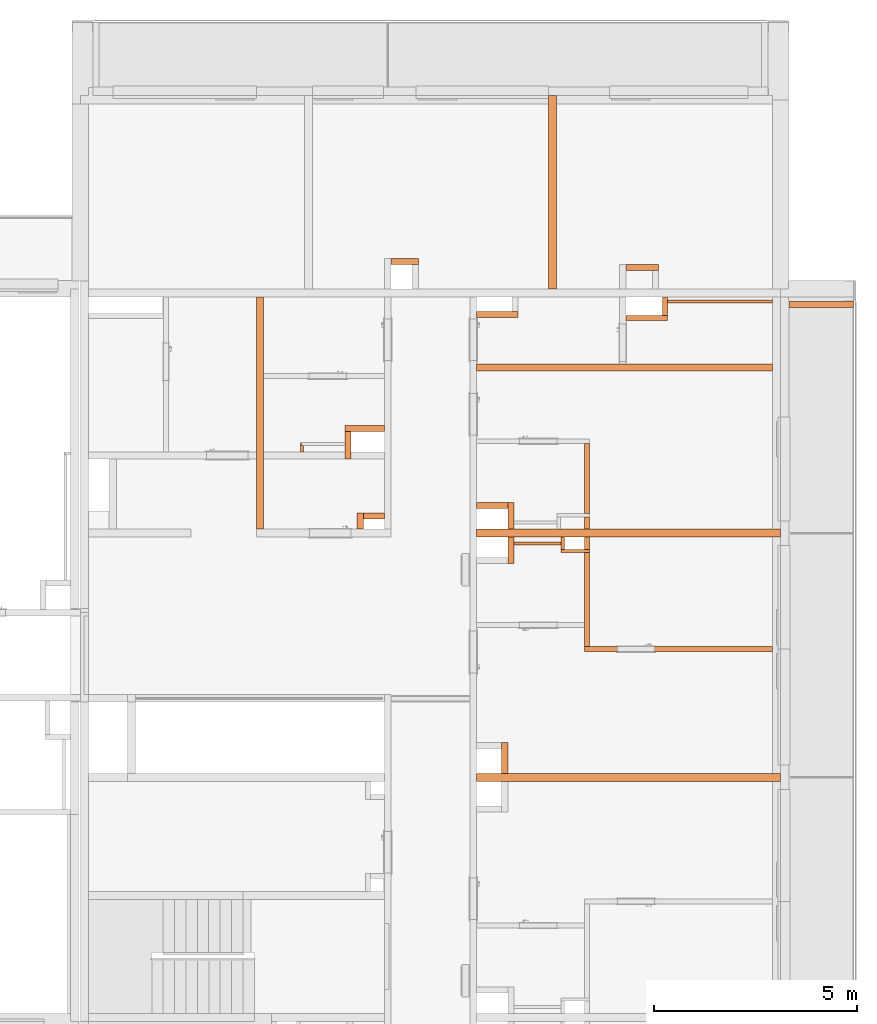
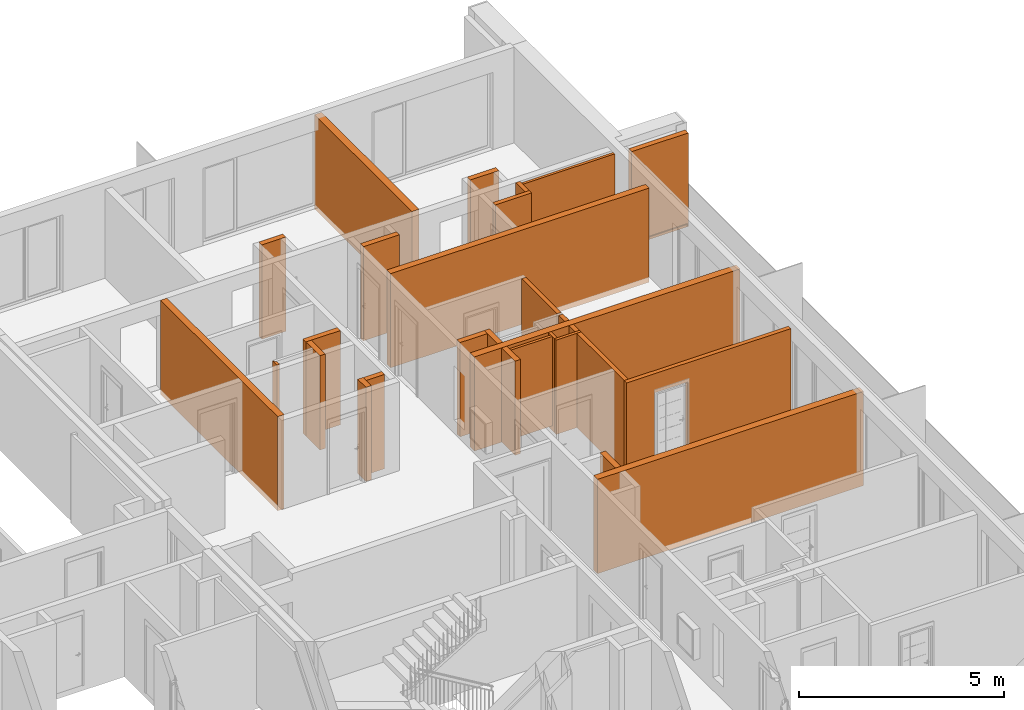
# One storey, part 64 of 64: 27 proxies, 1 opening.
"""IFC2X3 building model written with IfcOpenShell, lengths in millimetres."""

import ifcopenshell
import ifcopenshell.guid

model = None  # the IFC model being written
_history = None  # IfcOwnerHistory: only IFC2X3 demands one
_inside = {}  # id of a spatial element -> (the spatial element, [elements in it])
_under = {}  # id of a project, library or spatial element -> (it, [spatial elements below it])
_declared = {}  # id of a project -> (the project, [libraries it declares])
_typed = {}  # id of a type object -> (the type object, [elements of that type])
_made_of = {}  # id of a material, layer set ... -> (it, [elements and type objects made of it])


def new_model(schema):
    """Start an empty IFC model of exactly this schema.

    Asked for "IFC4X3", IfcOpenShell would pick the latest addendum, in which some entities
    have other attributes; the version numbers below select the first issue.
    IFC2X3 requires an IfcOwnerHistory on every rooted entity: one is made here for all.
    """
    global model, _history
    if schema == "IFC4X3":
        model = ifcopenshell.file(schema_version=(4, 3, 0, 0))
    else:
        model = ifcopenshell.file(schema=schema)
    _inside.clear()
    _under.clear()
    _declared.clear()
    _typed.clear()
    _made_of.clear()
    _history = None
    if model.schema == "IFC2X3":
        org = make("IfcOrganization", Name="unknown")
        user = make(
            "IfcPersonAndOrganization",
            ThePerson=make("IfcPerson", FamilyName="unknown"),
            TheOrganization=org,
        )
        app = make(
            "IfcApplication",
            ApplicationDeveloper=org,
            Version="unknown",
            ApplicationFullName="unknown",
            ApplicationIdentifier="unknown",
        )
        _history = make(
            "IfcOwnerHistory",
            OwningUser=user,
            OwningApplication=app,
            ChangeAction="ADDED",
            CreationDate=0,
        )
    return model


def make(cls, **values):
    """One entity of the class cls with the attributes given. An attribute that is None is left unset."""
    return model.create_entity(
        cls, **{name: value for name, value in values.items() if value is not None}
    )


def entity(cls, *values):
    """Any entity or typed value of the class cls, its attributes in the order of the schema. None: left unset."""
    e = model.create_entity(cls)
    for i, value in enumerate(values):
        if value is not None:
            e[i] = value
    return e


def rooted(cls, **values):
    """An entity with a GlobalId (a new one), such as an element, a storey or a relation."""
    return make(cls, GlobalId=ifcopenshell.guid.new(), OwnerHistory=_history, **values)


def si_unit(unit_type, name, prefix=None):
    """IfcSIUnit, for example si_unit("LENGTHUNIT", "METRE", prefix="MILLI")."""
    return make("IfcSIUnit", UnitType=unit_type, Prefix=prefix, Name=name)


def converted_unit(unit_type, name, factor, base, dimensions=None, offset=None):
    """IfcConversionBasedUnit, such as the inch: factor (a typed value) times the base unit."""
    return make(
        "IfcConversionBasedUnit"
        if offset is None
        else "IfcConversionBasedUnitWithOffset",
        ConversionOffset=offset,
        Dimensions=None
        if dimensions is None
        else entity("IfcDimensionalExponents", *dimensions),
        UnitType=unit_type,
        Name=name,
        ConversionFactor=make(
            "IfcMeasureWithUnit", ValueComponent=factor, UnitComponent=base
        ),
    )


def derived_unit(unit_type, elements):
    """IfcDerivedUnit: a product of units, each with its exponent."""
    return make(
        "IfcDerivedUnit",
        Elements=[
            make("IfcDerivedUnitElement", Unit=unit, Exponent=power)
            for unit, power in elements
        ],
        UnitType=unit_type,
    )


def money_unit(currency):
    """IfcMonetaryUnit."""
    return make("IfcMonetaryUnit", Currency=currency)


def assignment(units):
    """IfcUnitAssignment: the units of a project."""
    return None if units is None else make("IfcUnitAssignment", Units=units)


def point(xyz):
    """IfcCartesianPoint."""
    return None if xyz is None else make("IfcCartesianPoint", Coordinates=xyz)


def direction(xyz):
    """IfcDirection."""
    return None if xyz is None else make("IfcDirection", DirectionRatios=xyz)


def frame(location, z_axis=None, x_axis=None):
    """IfcAxis2Placement3D, a coordinate frame: its origin and axes. An axis left out is left unset."""
    return make(
        "IfcAxis2Placement3D",
        Location=point(location),
        Axis=direction(z_axis),
        RefDirection=direction(x_axis),
    )


def frame_2d(location, x_axis=None):
    """IfcAxis2Placement2D, a coordinate frame in the plane: its origin and x axis."""
    return make(
        "IfcAxis2Placement2D", Location=point(location), RefDirection=direction(x_axis)
    )


def origin_with_axes():
    """The frame at (0, 0, 0) with the z axis (0, 0, 1) and the x axis (1, 0, 0) written out."""
    return frame((0.0, 0.0, 0.0), z_axis=(0.0, 0.0, 1.0), x_axis=(1.0, 0.0, 0.0))


def origin_2d_with_axis():
    """The frame at (0, 0) in the plane with the x axis (1, 0) written out."""
    return frame_2d((0.0, 0.0), x_axis=(1.0, 0.0))


def place(relative_to, where):
    """IfcLocalPlacement: puts the frame where relative to a parent placement (None: the world)."""
    return make(
        "IfcLocalPlacement", PlacementRelTo=relative_to, RelativePlacement=where
    )


def context(
    kind, dimensions, precision=None, world=None, true_north=None, identifier=None
):
    """IfcGeometricRepresentationContext, for example the 3D "Model" context."""
    return make(
        "IfcGeometricRepresentationContext",
        ContextIdentifier=identifier,
        ContextType=kind,
        CoordinateSpaceDimension=dimensions,
        Precision=precision,
        WorldCoordinateSystem=world,
        TrueNorth=true_north,
    )


def subcontext(parent, identifier, kind, view, scale=None):
    """IfcGeometricRepresentationSubContext, for example "Body" below "Model"."""
    return make(
        "IfcGeometricRepresentationSubContext",
        ContextIdentifier=identifier,
        ContextType=kind,
        ParentContext=parent,
        TargetScale=scale,
        TargetView=view,
    )


def project(units=None, contexts=None):
    """IfcProject with its units and contexts."""
    return rooted(
        "IfcProject",
        Name="project",
        RepresentationContexts=contexts,
        UnitsInContext=assignment(units),
    )


def spatial(cls, under=None, at=None, **own):
    """A site, building, storey or space (cls), placed at a placement, below another one or the project."""
    s = rooted(cls, ObjectPlacement=at, **own)
    if under is not None:
        _under.setdefault(under.id(), (under, []))[1].append(s)
    return s


def profile(cls, at=None, kind="AREA", **sizes):
    """A parametric profile (cls). Its sizes go by their IFC names, for example OverallWidth=200.0."""
    return make(cls, ProfileType=kind, Position=at, **sizes)


def rectangle(**sizes):
    """IfcRectangleProfileDef."""
    return profile("IfcRectangleProfileDef", **sizes)


def extrude(swept, where, along, depth):
    """IfcExtrudedAreaSolid: the profile swept, set in the frame where, extruded along a direction by depth."""
    return make(
        "IfcExtrudedAreaSolid",
        SweptArea=swept,
        Position=where,
        ExtrudedDirection=direction(along),
        Depth=depth,
    )


def faces_of(points, faces, orient=None, outer=None):
    """IfcFace entities. A face is a list of loops; a loop is a list of indices into points, from 0.

    orient and outer hold one flag for each loop. By default every Orientation is true, the
    first loop of a face is its IfcFaceOuterBound and the others are IfcFaceBound.
    """
    made = []
    for i, loops in enumerate(faces):
        bounds = []
        for j, loop in enumerate(loops):
            is_outer = j == 0 if outer is None else outer[i][j]
            bounds.append(
                make(
                    "IfcFaceOuterBound" if is_outer else "IfcFaceBound",
                    Bound=make("IfcPolyLoop", Polygon=[points[k] for k in loop]),
                    Orientation=True if orient is None else orient[i][j],
                )
            )
        made.append(make("IfcFace", Bounds=bounds))
    return made


def faceted_brep(points, faces, orient=None, outer=None, voids=None):
    """IfcFacetedBrep: a solid bounded by flat faces; with voids (closed shells), ...WithVoids."""
    shared = [point(p) for p in points]
    hull = make("IfcClosedShell", CfsFaces=faces_of(shared, faces, orient, outer))
    if voids is None:
        return make("IfcFacetedBrep", Outer=hull)
    return make(
        "IfcFacetedBrepWithVoids",
        Outer=hull,
        Voids=[
            make(cls, CfsFaces=faces_of(shared, fs, o, b)) for cls, fs, o, b in voids
        ],
    )


def shape(context_of_items, identifier, shape_type, items):
    """IfcShapeRepresentation: the items that make up one representation, for example the "Body"."""
    return make(
        "IfcShapeRepresentation",
        ContextOfItems=context_of_items,
        RepresentationIdentifier=identifier,
        RepresentationType=shape_type,
        Items=items,
    )


def material(Name=None, Category=None):
    """IfcMaterial."""
    return make("IfcMaterial", Name=Name, Category=Category)


def material_list(materials):
    """IfcMaterialList."""
    return make("IfcMaterialList", Materials=materials)


def made_of(thing, what):
    """Note that an element or type object is made of a material, layer set ...; save() writes the relation."""
    if what is not None:
        _made_of.setdefault(what.id(), (what, []))[1].append(thing)
    return thing


def type_object(cls, material=None, **own):
    """A type object (cls), such as IfcWallType, which elements share."""
    return made_of(rooted(cls, **own), material)


def element(
    cls,
    number,
    at=None,
    inside=None,
    cuts=None,
    type_object=None,
    material=None,
    context=None,
    identifier="Body",
    shape_type=None,
    held_by="IfcProductDefinitionShape",
    body=None,
    shapes=None,
    **own,
):
    """One element of the class cls, such as IfcWall. Its Tag is "e" and its number.

    at: its placement. inside: the storey or other place that contains it. cuts: it is an
    opening in that element (IfcRelVoidsElement). A single representation is given by context,
    identifier, shape_type and body (its items); several are given by shapes. held_by: the class
    of the entity that holds the representations. save() writes the other relations.
    """
    e = rooted(cls, Tag="e%d" % number, ObjectPlacement=at, **own)
    if body is not None:
        shapes = [shape(context, identifier, shape_type, body)]
    if shapes is not None:
        e.Representation = make(held_by, Representations=shapes)
    if inside is not None:
        _inside.setdefault(inside.id(), (inside, []))[1].append(e)
    if cuts is not None:
        rooted(
            "IfcRelVoidsElement", RelatingBuildingElement=cuts, RelatedOpeningElement=e
        )
    if type_object is not None:
        _typed.setdefault(type_object.id(), (type_object, []))[1].append(e)
    return made_of(e, material)


def aggregate(whole, parts):
    """IfcRelAggregates: a whole, such as a stair, and the parts it consists of."""
    return rooted("IfcRelAggregates", RelatingObject=whole, RelatedObjects=parts)


def save(model, path):
    """Write the relations noted so far, then the file.

    IfcRelAggregates (storeys below a building ...), IfcRelContainedInSpatialStructure (elements
    in a storey), IfcRelDefinesByType, IfcRelAssociatesMaterial and IfcRelDeclares: one each for
    every whole, place, type object, material and project.
    """
    for whole, parts in _under.values():
        aggregate(whole, parts)
    for where, things in _inside.values():
        rooted(
            "IfcRelContainedInSpatialStructure",
            RelatedElements=things,
            RelatingStructure=where,
        )
    for kind, things in _typed.values():
        rooted("IfcRelDefinesByType", RelatedObjects=things, RelatingType=kind)
    for what, things in _made_of.values():
        rooted("IfcRelAssociatesMaterial", RelatedObjects=things, RelatingMaterial=what)
    for by, libraries in _declared.values():
        rooted("IfcRelDeclares", RelatingContext=by, RelatedDefinitions=libraries)
    model.write(path)


model = new_model("IFC2X3")

# Units and contexts
model_context = context("Model", 3, precision=0.01, world=origin_with_axes(), true_north=direction((0.34421633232, 0.938890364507)))
body_context = subcontext(model_context, "Body", "Model", "MODEL_VIEW")
ifc_project = project(units=[si_unit("LENGTHUNIT", "METRE", prefix="MILLI"), si_unit("AREAUNIT", "SQUARE_METRE"), si_unit("VOLUMEUNIT", "CUBIC_METRE"), converted_unit("PLANEANGLEUNIT", "DEGREE", entity("IfcPlaneAngleMeasure", 0.0174532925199), si_unit("PLANEANGLEUNIT", "RADIAN"), dimensions=[0, 0, 0, 0, 0, 0, 0]), si_unit("SOLIDANGLEUNIT", "STERADIAN"), money_unit("USD"), converted_unit("TIMEUNIT", "Year", entity("IfcTimeMeasure", 31556926.0), si_unit("TIMEUNIT", "SECOND"), dimensions=[0, 0, 1, 0, 0, 0, 0]), si_unit("MASSUNIT", "GRAM", prefix="KILO"), si_unit("THERMODYNAMICTEMPERATUREUNIT", "DEGREE_CELSIUS"), si_unit("LUMINOUSINTENSITYUNIT", "LUMEN"), si_unit("ENERGYUNIT", "JOULE", prefix="MEGA"), derived_unit("THERMALCONDUCTANCEUNIT", [(si_unit("POWERUNIT", "WATT"), 1), (si_unit("LENGTHUNIT", "METRE"), -1), (si_unit("THERMODYNAMICTEMPERATUREUNIT", "KELVIN"), -1)]), derived_unit("SPECIFICHEATCAPACITYUNIT", [(si_unit("ENERGYUNIT", "JOULE"), 1), (si_unit("MASSUNIT", "GRAM", prefix="KILO"), -1), (si_unit("THERMODYNAMICTEMPERATUREUNIT", "KELVIN"), -1)]), derived_unit("MASSDENSITYUNIT", [(si_unit("MASSUNIT", "GRAM", prefix="KILO"), 1), (si_unit("VOLUMEUNIT", "CUBIC_METRE"), -1)])], contexts=[model_context])

# Site, building, storey
site_placement = place(None, origin_with_axes())
site = spatial("IfcSite", under=ifc_project, at=site_placement, Name="USTRONIE MORSKIE", CompositionType="ELEMENT")
building_placement = place(site_placement, origin_with_axes())
building = spatial("IfcBuilding", under=site, at=building_placement, Name="Budynek", CompositionType="ELEMENT")
storey_placement = place(building_placement, frame((0.0, 0.0, 7000.0), z_axis=(0.0, 0.0, 1.0), x_axis=(1.0, 0.0, 0.0)))
storey = spatial("IfcBuildingStorey", under=building, at=storey_placement, Name="PIĘTRO 2", CompositionType="ELEMENT", Elevation=7000.0)

# Proxies
ifc_material_1 = material(Name="Bloczki silikatowe")
building_element_proxy_type_1 = type_object("IfcBuildingElementProxyType", Name="Bloczki silikatowe 120", PredefinedType="NOTDEFINED")
proxy_1_placement = place(storey_placement, frame((421792.920919, 744091.199036, -160.0), z_axis=(0.0, 0.0, 1.0), x_axis=(1.0, 0.0, 0.0)))
element("IfcBuildingElementProxy", 1, at=proxy_1_placement, inside=storey, type_object=building_element_proxy_type_1, material=ifc_material_1, Name="SW-04", context=body_context, shape_type="Brep", body=[
    faceted_brep([(1095.0, -59.9999999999, 2800.0), (1095.0, 59.9999999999, 2800.0), (75.0, 59.9999999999, 2800.0), (75.0, -59.9999999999, 2800.0), (1095.0, -59.9999999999, 0.0), (1095.0, 59.9999999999, 0.0), (75.0, 59.9999999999, 0.0), (75.0, -59.9999999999, 0.0)], [[[0, 1, 2, 3]], [[1, 0, 4, 5]], [[1, 5, 6, 2]], [[7, 3, 2, 6]], [[4, 0, 3, 7]], [[5, 4, 7, 6]]]),
])
proxy_2_placement = place(storey_placement, frame((420917.920919, 738801.202745, -180.0), z_axis=(0.0, 0.0, 1.0), x_axis=(0.0, 1.0, 0.0)))
element("IfcBuildingElementProxy", 2, at=proxy_2_placement, inside=storey, type_object=building_element_proxy_type_1, material=ifc_material_1, Name="SW-04", context=body_context, shape_type="Brep", body=[
    faceted_brep([(99.9959005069, -60.0, 2820.0), (99.9959005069, -60.0, 20.0), (399.996773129, -60.0, 20.0), (399.996773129, -60.0, 2820.0), (99.9959005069, 60.0, 2820.0), (99.9959005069, 60.0, 20.0), (399.996773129, 60.0, 20.0), (399.996773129, 60.0, 2820.0)], [[[0, 1, 2, 3]], [[4, 5, 1, 0]], [[5, 6, 2, 1]], [[3, 2, 6, 7]], [[4, 0, 3, 7]], [[7, 6, 5, 4]]]),
    faceted_brep([(479.996773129, -60.0, 2820.0), (479.996773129, -60.0, 20.0), (2200.00519406, -60.0, 20.0), (2200.00519406, -60.0, 2820.0), (479.996773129, 60.0, 2820.0), (479.996773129, 60.0, 20.0), (2200.00519406, 60.0, 20.0), (2200.00519406, 60.0, 2820.0)], [[[0, 1, 2, 3]], [[4, 5, 1, 0]], [[5, 6, 2, 1]], [[3, 2, 6, 7]], [[3, 7, 4, 0]], [[7, 6, 5, 4]]]),
])
proxy_3_placement = place(storey_placement, frame((422827.920919, 744091.199036, -160.0), z_axis=(0.0, 0.0, 1.0), x_axis=(0.0, 1.0, 0.0)))
element("IfcBuildingElementProxy", 3, at=proxy_3_placement, inside=storey, type_object=building_element_proxy_type_1, material=ifc_material_1, Name="SW-04", context=body_context, shape_type="Brep", body=[
    faceted_brep([(510.0, -60.0, 2800.0), (510.0, 60.0, 2800.0), (59.9999999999, 60.0, 2800.0), (59.9999999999, -60.0, 2800.0), (510.0, -60.0, 0.0), (510.0, 60.0, 0.0), (59.9999999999, 60.0, 0.0), (59.9999999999, -60.0, 0.0)], [[[0, 1, 2, 3]], [[1, 0, 4, 5]], [[1, 5, 6, 2]], [[7, 3, 2, 6]], [[4, 0, 3, 7]], [[5, 4, 7, 6]]]),
])

# Proxy, opening
proxy_4_placement = place(storey_placement, frame((420917.920919, 735951.179686, -160.0), z_axis=(0.0, 0.0, 1.0), x_axis=(1.0, 0.0, 0.0)))
proxy_4 = element("IfcBuildingElementProxy", 4, at=proxy_4_placement, inside=storey, type_object=building_element_proxy_type_1, material=ifc_material_1, Name="SW-04", context=body_context, shape_type="Brep", body=[
    faceted_brep([(4550.0, -59.9999999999, 2800.0), (4550.0, 59.9999999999, 2800.0), (-60.0, 59.9999999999, 2800.0), (-60.0, -59.9999999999, 2800.0), (4550.0, -59.9999999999, 0.0), (4550.0, 59.9999999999, 0.0), (-60.0, 59.9999999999, 0.0), (-60.0, -59.9999999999, 0.0)], [[[0, 1, 2, 3]], [[1, 0, 4, 5]], [[1, 5, 6, 2]], [[7, 3, 2, 6]], [[4, 0, 3, 7]], [[5, 4, 7, 6]]]),
])
opening_placement = place(proxy_4_placement, frame((1200.0, 0.0, 160.0), z_axis=(0.0, 0.0, 1.0), x_axis=(1.0, 0.0, 0.0)))
element("IfcOpeningElement", 5, at=opening_placement, cuts=proxy_4, Name="Dw.3", context=body_context, shape_type="SweptSolid", body=[
    extrude(rectangle(XDim=920.0, YDim=2070.0, at=origin_2d_with_axis()), frame((0.0, 120.0, 1035.0), z_axis=(0.0, 1.0, 0.0), x_axis=(-1.0, 0.0, 0.0)), (0.0, 0.0, -1.0), 360.0),
    extrude(rectangle(XDim=994.0, YDim=2177.0, at=origin_2d_with_axis()), frame((0.0, 60.0000000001, 1088.5), z_axis=(0.0, 1.0, 0.0), x_axis=(-1.0, 0.0, 0.0)), (0.0, 0.0, 1.0), 120.0),
    extrude(rectangle(XDim=994.0, YDim=2177.0, at=origin_2d_with_axis()), frame((0.0, -59.9999999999, 1088.5), z_axis=(0.0, -1.0, 0.0), x_axis=(-1.0, 0.0, 0.0)), (0.0, 0.0, 1.0), 120.0),
])

# Proxies
proxy_5_placement = place(storey_placement, frame((420917.920919, 738801.199036, -160.0), z_axis=(0.0, 0.0, 1.0), x_axis=(0.0, -1.0, 0.0)))
element("IfcBuildingElementProxy", 6, at=proxy_5_placement, inside=storey, type_object=building_element_proxy_type_1, material=ifc_material_1, Name="SW-04", context=body_context, shape_type="Brep", body=[
    faceted_brep([(400.01915523, 60.0, 0.0), (100.000390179, 60.0, 0.0), (100.000390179, 60.0, 2800.0), (400.01915523, 60.0, 2800.0), (400.01915523, -60.0, 0.0), (100.000390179, -60.0, 0.0), (100.000390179, -60.0, 2800.0), (400.01915523, -60.0, 2800.0)], [[[0, 1, 2, 3]], [[4, 5, 1, 0]], [[5, 6, 2, 1]], [[3, 2, 6, 7]], [[3, 7, 4, 0]], [[7, 6, 5, 4]]]),
    faceted_brep([(480.01915523, -60.0, 0.0), (480.01915523, 60.0, 0.0), (2790.01935038, 60.0, 0.0), (2790.01935038, -60.0, 0.0), (480.01915523, -60.0, 2800.0), (480.01915523, 60.0, 2800.0), (2790.01935038, 60.0, 2800.0), (2790.01935038, -60.0, 2800.0)], [[[0, 1, 2, 3]], [[1, 0, 4, 5]], [[1, 5, 6, 2]], [[7, 3, 2, 6]], [[4, 0, 3, 7]], [[5, 4, 7, 6]]]),
])
building_element_proxy_type_2 = type_object("IfcBuildingElementProxyType", Name="Bloczki silikatowe 180", PredefinedType="NOTDEFINED")
proxy_6_placement = place(storey_placement, frame((418117.920919, 742871.199128, -160.0), z_axis=(0.0, 0.0, 1.0), x_axis=(1.0, 0.0, 0.0)))
element("IfcBuildingElementProxy", 7, at=proxy_6_placement, inside=storey, type_object=building_element_proxy_type_2, material=ifc_material_1, Name="SW-02", context=body_context, shape_type="Brep", body=[
    faceted_brep([(7350.0, -90.0, 2800.0), (7350.0, 90.0, 2800.0), (80.0, 90.0, 2800.0), (80.0, -90.0, 2800.0), (7350.0, -90.0, 0.0), (7350.0, 90.0, 0.0), (80.0, 90.0, 0.0), (80.0, -90.0, 0.0)], [[[0, 1, 2, 3]], [[1, 0, 4, 5]], [[1, 5, 6, 2]], [[7, 3, 2, 6]], [[4, 0, 3, 7]], [[5, 4, 7, 6]]]),
])
proxy_7_placement = place(storey_placement, frame((412877.920963, 744701.199036, -160.0), z_axis=(0.0, 0.0, 1.0), x_axis=(0.0, -1.0, 0.0)))
element("IfcBuildingElementProxy", 8, at=proxy_7_placement, inside=storey, type_object=building_element_proxy_type_2, material=ifc_material_1, Name="SW-02", context=body_context, shape_type="Brep", body=[
    faceted_brep([(100.0, 90.0, 0.0), (5800.0, 90.0, 0.0), (5800.0, -90.0, 0.0), (100.0, -90.0, 0.0), (100.0, 90.0, 2800.0), (5800.0, 90.0, 2800.0), (5800.0, -90.0, 2800.0), (100.0, -90.0, 2800.0)], [[[0, 1, 2, 3]], [[4, 5, 1, 0]], [[6, 2, 1, 5]], [[3, 2, 6, 7]], [[7, 4, 0, 3]], [[7, 6, 5, 4]]]),
])
ifc_material_2 = material(Name="-Pustka powietrzna")
ifc_material_3 = material(Name="Płyta GK")
ifc_material_list_1 = material_list([ifc_material_2, ifc_material_3, ifc_material_3])
building_element_proxy_type_3 = type_object("IfcBuildingElementProxyType", Name="330-SD GK 2-warstwy 75", PredefinedType="NOTDEFINED")
proxy_8_placement = place(storey_placement, frame((413892.919124, 741001.179476, -180.0), z_axis=(0.0, 0.0, 1.0), x_axis=(0.0, -1.0, 0.0)))
element("IfcBuildingElementProxy", 9, at=proxy_8_placement, inside=storey, type_object=building_element_proxy_type_3, material=ifc_material_list_1, Name="Ściana-009", context=body_context, shape_type="Brep", body=[
    faceted_brep([(200.0, 50.0, 180.0), (50.0, 50.0, 180.0), (50.0, 50.0, 2820.0), (200.0, 50.0, 2820.0), (50.0, 0.0, 180.0), (200.0, 0.0, 180.0), (50.0, 0.0, 2820.0), (200.0, 0.0, 2820.0)], [[[0, 1, 2, 3]], [[4, 1, 0, 5]], [[1, 4, 6, 2]], [[6, 7, 3, 2]], [[5, 0, 3, 7]], [[4, 5, 7, 6]]]),
    faceted_brep([(200.0, 0.0, 165.0), (0.0, 0.0, 165.0), (0.0, 0.0, 2820.0), (200.0, 0.0, 2820.0), (0.0, -12.5, 165.0), (200.0, -12.5, 165.0), (0.0, -12.5, 2820.0), (200.0, -12.5, 2820.0)], [[[0, 1, 2, 3]], [[4, 1, 0, 5]], [[1, 4, 6, 2]], [[6, 7, 3, 2]], [[5, 0, 3, 7]], [[4, 5, 7, 6]]]),
    faceted_brep([(200.0, -12.5, 165.0), (-12.5, -12.5, 165.0), (-12.5, -12.5, 2820.0), (200.0, -12.5, 2820.0), (-12.5, -25.0, 165.0), (200.0, -25.0, 165.0), (-12.5, -25.0, 2820.0), (200.0, -25.0, 2820.0)], [[[0, 1, 2, 3]], [[4, 1, 0, 5]], [[1, 4, 6, 2]], [[6, 7, 3, 2]], [[5, 0, 3, 7]], [[4, 5, 7, 6]]]),
])
ifc_material_list_2 = material_list([ifc_material_3, ifc_material_3, ifc_material_2])
proxy_9_placement = place(storey_placement, frame((420317.920919, 738531.200389, -180.0), z_axis=(0.0, 0.0, 1.0), x_axis=(-1.0, 0.0, 0.0)))
element("IfcBuildingElementProxy", 10, at=proxy_9_placement, inside=storey, type_object=building_element_proxy_type_3, material=ifc_material_list_2, Name="Ściana-009", context=body_context, shape_type="Brep", body=[
    faceted_brep([(40.0, 25.0, 165.0), (40.0, 12.5, 165.0), (40.0, 12.5, 2820.0), (40.0, 25.0, 2820.0), (1199.99909883, 12.5, 165.0), (1199.99909883, 25.0, 165.0), (1199.99909883, 12.5, 2820.0), (1199.99909883, 25.0, 2820.0)], [[[0, 1, 2, 3]], [[4, 1, 0, 5]], [[1, 4, 6, 2]], [[7, 3, 2, 6]], [[5, 0, 3, 7]], [[4, 5, 7, 6]]]),
    faceted_brep([(40.0, 12.5, 165.0), (40.0, 0.0, 165.0), (40.0, 0.0, 2820.0), (40.0, 12.5, 2820.0), (1199.99909883, 0.0, 165.0), (1199.99909883, 12.5, 165.0), (1199.99909883, 0.0, 2820.0), (1199.99909883, 12.5, 2820.0)], [[[0, 1, 2, 3]], [[4, 1, 0, 5]], [[1, 4, 6, 2]], [[7, 3, 2, 6]], [[5, 0, 3, 7]], [[4, 5, 7, 6]]]),
    faceted_brep([(40.0, 0.0, 180.0), (40.0, -50.0, 180.0), (40.0, -50.0, 2820.0), (40.0, 0.0, 2820.0), (1199.99909883, -50.0, 180.0), (1199.99909883, 0.0, 180.0), (1199.99909883, -50.0, 2820.0), (1199.99909883, 0.0, 2820.0)], [[[0, 1, 2, 3]], [[4, 1, 0, 5]], [[1, 4, 6, 2]], [[7, 3, 2, 6]], [[5, 0, 3, 7]], [[4, 5, 7, 6]]]),
])
proxy_10_placement = place(storey_placement, frame((422827.920919, 744481.199036, -180.0), z_axis=(0.0, 0.0, 1.0), x_axis=(1.0, 0.0, 0.0)))
element("IfcBuildingElementProxy", 11, at=proxy_10_placement, inside=storey, type_object=building_element_proxy_type_3, material=ifc_material_list_1, Name="Ściana-009", context=body_context, shape_type="Brep", body=[
    faceted_brep([(2639.99960996, -7.95807864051e-10, 180.0), (2639.99960929, 49.9999999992, 180.0), (2640.0, 49.9999999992, 2820.0), (2640.0, -7.95807864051e-10, 2820.0), (60.0, 50.0, 180.0), (60.0, 0.0, 180.0), (60.0, 50.0, 2820.0), (60.0, 0.0, 2820.0)], [[[0, 1, 2, 3]], [[4, 1, 0, 5]], [[1, 4, 6, 2]], [[2, 6, 7, 3]], [[5, 0, 3, 7]], [[4, 5, 7, 6]]]),
    faceted_brep([(2639.99961013, -12.5000000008, 165.0), (2639.99960996, -7.95807864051e-10, 165.0), (2640.0, -7.95807864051e-10, 2820.0), (2640.0, -12.5000000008, 2820.0), (60.0, 0.0, 165.0), (60.0, -12.5, 165.0), (60.0, 0.0, 2820.0), (60.0, -12.5, 2820.0)], [[[0, 1, 2, 3]], [[4, 1, 0, 5]], [[1, 4, 6, 2]], [[2, 6, 7, 3]], [[5, 0, 3, 7]], [[4, 5, 7, 6]]]),
    faceted_brep([(2639.99961029, -25.0000000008, 165.0), (2639.99961013, -12.5000000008, 165.0), (2640.0, -12.5000000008, 2820.0), (2640.0, -25.0000000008, 2820.0), (60.0, -12.5, 165.0), (60.0, -25.0, 165.0), (60.0, -12.5, 2820.0), (60.0, -25.0, 2820.0)], [[[0, 1, 2, 3]], [[4, 1, 0, 5]], [[1, 4, 6, 2]], [[2, 6, 7, 3]], [[5, 0, 3, 7]], [[4, 5, 7, 6]]]),
])
building_element_proxy_type_4 = type_object("IfcBuildingElementProxyType", Name="Bloczki silikatowe 80", PredefinedType="NOTDEFINED")
proxy_11_placement = place(storey_placement, frame((420317.920919, 738801.19863, -160.0), z_axis=(0.0, 0.0, 1.0), x_axis=(0.0, -1.0, 0.0)))
element("IfcBuildingElementProxy", 12, at=proxy_11_placement, inside=storey, type_object=building_element_proxy_type_4, material=ifc_material_1, Name="Ściana-010", context=body_context, shape_type="Brep", body=[
    faceted_brep([(400.018748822, 40.0, 0.0), (400.018748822, -40.0, 0.0), (99.999999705, -40.0, 0.0), (100.000000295, 40.0, 0.0), (400.018748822, 40.0, 2800.0), (400.018748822, -40.0, 2800.0), (99.999999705, -40.0, 2800.0), (100.000000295, 40.0, 2800.0)], [[[0, 1, 2, 3]], [[1, 0, 4, 5]], [[1, 5, 6, 2]], [[7, 3, 2, 6]], [[4, 0, 3, 7]], [[5, 4, 7, 6]]]),
])
proxy_12_placement = place(storey_placement, frame((420917.920919, 738361.179881, -160.0), z_axis=(0.0, 0.0, 1.0), x_axis=(-1.0, 0.0, 0.0)))
element("IfcBuildingElementProxy", 13, at=proxy_12_placement, inside=storey, type_object=building_element_proxy_type_4, material=ifc_material_1, Name="Ściana-009", context=body_context, shape_type="Brep", body=[
    faceted_brep([(640.0, 40.0, 0.0), (640.0, -40.0, 0.0), (-60.0, -40.0, 0.0), (-60.0, 40.0, 0.0), (640.0, 40.0, 2800.0), (640.0, -40.0, 2800.0), (-60.0, -40.0, 2800.0), (-60.0, 40.0, 2800.0)], [[[0, 1, 2, 3]], [[1, 0, 4, 5]], [[1, 5, 6, 2]], [[7, 3, 2, 6]], [[4, 0, 3, 7]], [[5, 4, 7, 6]]]),
])
building_element_proxy_type_5 = type_object("IfcBuildingElementProxyType", Name="Bloczki silikatowe 150", PredefinedType="NOTDEFINED")
proxy_13_placement = place(storey_placement, frame((416017.920918, 745476.199937, -160.0), z_axis=(0.0, 0.0, 1.0), x_axis=(1.0, 0.0, 0.0)))
element("IfcBuildingElementProxy", 14, at=proxy_13_placement, inside=storey, type_object=building_element_proxy_type_5, material=ifc_material_1, Name="SW-03", context=body_context, shape_type="Brep", body=[
    faceted_brep([(749.999171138, 75.0, 0.0), (749.999171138, -75.0, 0.0), (80.0, -75.0, 0.0), (80.0, 75.0, 0.0), (749.999171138, 75.0, 2800.0), (749.999171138, -75.0, 2800.0), (80.0, -75.0, 2800.0), (80.0, 75.0, 2800.0)], [[[0, 1, 2, 3]], [[1, 0, 4, 5]], [[1, 5, 6, 2]], [[7, 3, 2, 6]], [[4, 0, 3, 7]], [[5, 4, 7, 6]]]),
])
proxy_14_placement = place(storey_placement, frame((418117.920919, 744176.199036, -160.0), z_axis=(0.0, 0.0, 1.0), x_axis=(1.0, 0.0, 0.0)))
element("IfcBuildingElementProxy", 15, at=proxy_14_placement, inside=storey, type_object=building_element_proxy_type_5, material=ifc_material_1, Name="SW-03", context=body_context, shape_type="Brep", body=[
    faceted_brep([(1100.00090117, -75.0, 2800.0), (1100.00090117, 75.0, 2800.0), (80.0, 75.0, 2800.0), (80.0, -75.0, 2800.0), (1100.00090117, -75.0, 0.0), (1100.00090117, 75.0, 0.0), (80.0, 75.0, 0.0), (80.0, -75.0, 0.0)], [[[0, 1, 2, 3]], [[1, 0, 4, 5]], [[1, 5, 6, 2]], [[7, 3, 2, 6]], [[4, 0, 3, 7]], [[5, 4, 7, 6]]]),
])
proxy_15_placement = place(storey_placement, frame((419042.92182, 738801.198639, -160.0), z_axis=(0.0, 0.0, 1.0), x_axis=(0.0, -1.0, 0.0)))
element("IfcBuildingElementProxy", 16, at=proxy_15_placement, inside=storey, type_object=building_element_proxy_type_5, material=ifc_material_1, Name="Ściana-009", context=body_context, shape_type="Brep", body=[
    faceted_brep([(750.000877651, 75.0, 0.0), (99.999992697, 75.0, 0.0), (99.999992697, 75.0, 2800.0), (750.000877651, 75.0, 2800.0), (750.000877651, -75.0, 0.0), (99.999992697, -75.0, 0.0), (99.999992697, -75.0, 2800.0), (750.000877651, -75.0, 2800.0)], [[[0, 1, 2, 3]], [[4, 5, 1, 0]], [[5, 6, 2, 1]], [[3, 2, 6, 7]], [[3, 7, 4, 0]], [[7, 6, 5, 4]]]),
])
proxy_16_placement = place(storey_placement, frame((422592.920919, 745326.199036, -160.0), z_axis=(0.0, 0.0, 1.0), x_axis=(-1.0, 0.0, 0.0)))
element("IfcBuildingElementProxy", 17, at=proxy_16_placement, inside=storey, type_object=building_element_proxy_type_5, material=ifc_material_1, Name="Œciana-007", context=body_context, shape_type="Brep", body=[
    faceted_brep([(725.0, 75.0, 0.0), (725.0, -75.0, 0.0), (-75.0, -75.0, 0.0), (-75.0, 75.0, 0.0), (725.0, 75.0, 2800.0), (725.0, -75.0, 2800.0), (-75.0, -75.0, 2800.0), (-75.0, 75.0, 2800.0)], [[[0, 1, 2, 3]], [[1, 0, 4, 5]], [[1, 5, 6, 2]], [[7, 3, 2, 6]], [[4, 0, 3, 7]], [[5, 4, 7, 6]]]),
])
proxy_17_placement = place(storey_placement, frame((419042.92182, 739476.199519, -160.0), z_axis=(0.0, 0.0, 1.0), x_axis=(-1.0, 0.0, 0.0)))
element("IfcBuildingElementProxy", 18, at=proxy_17_placement, inside=storey, type_object=building_element_proxy_type_5, material=ifc_material_1, Name="Ściana-009", context=body_context, shape_type="Brep", body=[
    faceted_brep([(845.00090117, -75.0, 2800.0), (845.00090117, 75.0, 2800.0), (75.0, 75.0, 2800.0), (75.0, -75.0, 2800.0), (845.00090117, -75.0, 0.0), (845.00090117, 75.0, 0.0), (75.0, 75.0, 0.0), (75.0, -75.0, 0.0)], [[[0, 1, 2, 3]], [[1, 0, 4, 5]], [[1, 5, 6, 2]], [[7, 3, 2, 6]], [[4, 0, 3, 7]], [[5, 4, 7, 6]]]),
])
proxy_18_placement = place(storey_placement, frame((419042.92182, 738801.198639, -160.0), z_axis=(0.0, 0.0, 1.0), x_axis=(0.0, 1.0, 0.0)))
element("IfcBuildingElementProxy", 19, at=proxy_18_placement, inside=storey, type_object=building_element_proxy_type_5, material=ifc_material_1, Name="Ściana-009", context=body_context, shape_type="Brep", body=[
    faceted_brep([(750.000879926, -75.0, 2800.0), (750.000879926, 75.0, 2800.0), (100.000001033, 75.0, 2800.0), (99.9999999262, -75.0, 2800.0), (750.000879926, -75.0, 0.0), (750.000879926, 75.0, 0.0), (100.000001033, 75.0, 0.0), (99.9999999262, -75.0, 0.0)], [[[0, 1, 2, 3]], [[1, 0, 4, 5]], [[1, 5, 6, 2]], [[7, 3, 2, 6]], [[4, 0, 3, 7]], [[5, 4, 7, 6]]]),
])
proxy_19_placement = place(storey_placement, frame((418817.920919, 732801.198998, -160.0), z_axis=(0.0, 0.0, 1.0), x_axis=(0.0, 1.0, 0.0)))
element("IfcBuildingElementProxy", 20, at=proxy_19_placement, inside=storey, type_object=building_element_proxy_type_5, material=ifc_material_1, Name="SW-03", context=body_context, shape_type="Brep", body=[
    faceted_brep([(850.000037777, -150.0, 2800.0), (850.000037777, 0.0, 2800.0), (100.000037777, 0.0, 2800.0), (100.000037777, -150.0, 2800.0), (850.000037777, -150.0, 0.0), (850.000037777, 0.0, 0.0), (100.000037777, 0.0, 0.0), (100.000037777, -150.0, 0.0)], [[[0, 1, 2, 3]], [[1, 0, 4, 5]], [[1, 5, 6, 2]], [[7, 3, 2, 6]], [[4, 0, 3, 7]], [[5, 4, 7, 6]]]),
])
proxy_20_placement = place(storey_placement, frame((415042.919124, 740711.179476, -160.0), z_axis=(0.0, 0.0, 1.0), x_axis=(0.0, 1.0, 0.0)))
element("IfcBuildingElementProxy", 21, at=proxy_20_placement, inside=storey, type_object=building_element_proxy_type_5, material=ifc_material_1, Name="SW-04", context=body_context, shape_type="Brep", body=[
    faceted_brep([(590.00090117, 75.0, 0.0), (590.00090117, -75.0, 0.0), (-90.0, -75.0, 0.0), (-90.0, 75.0, 0.0), (590.00090117, 75.0, 2800.0), (590.00090117, -75.0, 2800.0), (-90.0, -75.0, 2800.0), (-90.0, 75.0, 2800.0)], [[[0, 1, 2, 3]], [[1, 0, 4, 5]], [[1, 5, 6, 2]], [[7, 3, 2, 6]], [[4, 0, 3, 7]], [[5, 4, 7, 6]]]),
])
proxy_21_placement = place(storey_placement, frame((415042.919124, 741376.180377, -160.0), z_axis=(0.0, 0.0, 1.0), x_axis=(1.0, 0.0, 0.0)))
element("IfcBuildingElementProxy", 22, at=proxy_21_placement, inside=storey, type_object=building_element_proxy_type_5, material=ifc_material_1, Name="SW-04", context=body_context, shape_type="Brep", body=[
    faceted_brep([(895.001793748, 75.0, 0.0), (895.001793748, -75.0, 0.0), (-75.0, -75.0, 0.0), (-75.0, 75.0, 0.0), (895.001793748, 75.0, 2800.0), (895.001793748, -75.0, 2800.0), (-75.0, -75.0, 2800.0), (-75.0, 75.0, 2800.0)], [[[0, 1, 2, 3]], [[1, 0, 4, 5]], [[1, 5, 6, 2]], [[7, 3, 2, 6]], [[4, 0, 3, 7]], [[5, 4, 7, 6]]]),
])
proxy_22_placement = place(storey_placement, frame((416017.920919, 739151.199036, -160.0), z_axis=(0.0, 0.0, 1.0), x_axis=(-1.0, 0.0, 0.0)))
element("IfcBuildingElementProxy", 23, at=proxy_22_placement, inside=storey, type_object=building_element_proxy_type_5, material=ifc_material_1, Name="SW-04", context=body_context, shape_type="Brep", body=[
    faceted_brep([(600.001794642, 0.0, 0.0), (600.001794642, -150.0, 0.0), (80.0000008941, -150.0, 0.0), (80.0000008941, 0.0, 0.0), (600.001794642, 0.0, 2800.0), (600.001794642, -150.0, 2800.0), (80.0000008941, -150.0, 2800.0), (80.0000008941, 0.0, 2800.0)], [[[0, 1, 2, 3]], [[1, 0, 4, 5]], [[1, 5, 6, 2]], [[7, 3, 2, 6]], [[4, 0, 3, 7]], [[5, 4, 7, 6]]]),
])
proxy_23_placement = place(storey_placement, frame((415417.919124, 738801.199036, -160.0), z_axis=(0.0, 0.0, 1.0), x_axis=(0.0, 1.0, 0.0)))
element("IfcBuildingElementProxy", 24, at=proxy_23_placement, inside=storey, type_object=building_element_proxy_type_5, material=ifc_material_1, Name="SW-04", context=body_context, shape_type="Brep", body=[
    faceted_brep([(500.0, 0.0, 2800.0), (500.0, 150.0, 2800.0), (100.0, 150.0, 2800.0), (100.0, 0.0, 2800.0), (500.0, 0.0, 0.0), (500.0, 150.0, 0.0), (100.0, 150.0, 0.0), (100.0, 0.0, 0.0)], [[[0, 1, 2, 3]], [[1, 0, 4, 5]], [[1, 5, 6, 2]], [[7, 3, 2, 6]], [[4, 0, 3, 7]], [[5, 4, 7, 6]]]),
])
ifc_material_4 = material(Name="Beton konstrukcyjny B25")
building_element_proxy_type_6 = type_object("IfcBuildingElementProxyType", Name="Beton konstrukcyjny B25 200", PredefinedType="NOTDEFINED")
proxy_24_placement = place(storey_placement, frame((420067.920919, 744701.199036, -160.0), z_axis=(0.0, 0.0, 1.0), x_axis=(0.0, 1.0, 0.0)))
element("IfcBuildingElementProxy", 25, at=proxy_24_placement, inside=storey, type_object=building_element_proxy_type_6, material=ifc_material_4, Name="SW-01", context=body_context, shape_type="Brep", body=[
    faceted_brep([(4849.99022893, -100.0, 2800.0), (4849.9903974, 100.0, 2800.0), (100.0, 100.0, 2800.0), (100.0, -100.0, 2800.0), (4849.99022893, -100.0, 0.0), (4849.9903974, 100.0, 0.0), (100.0, 100.0, 0.0), (100.0, -100.0, 0.0)], [[[0, 1, 2, 3]], [[1, 0, 4, 5]], [[1, 5, 6, 2]], [[7, 3, 2, 6]], [[4, 0, 3, 7]], [[5, 4, 7, 6]]]),
])
proxy_25_placement = place(storey_placement, frame((425567.920919, 732801.199036, -160.0), z_axis=(0.0, 0.0, 1.0), x_axis=(-1.0, 0.0, 0.0)))
element("IfcBuildingElementProxy", 26, at=proxy_25_placement, inside=storey, type_object=building_element_proxy_type_6, material=ifc_material_4, Name="SW-01", context=body_context, shape_type="Brep", body=[
    faceted_brep([(-100.0, 100.0, 0.0), (7370.0, 100.0, 0.0), (7370.0, -100.0, 0.0), (-100.0, -100.0, 0.0), (-100.0, 100.0, 2800.0), (7370.0, 100.0, 2800.0), (7370.0, -100.0, 2800.0), (-100.0, -100.0, 2800.0)], [[[0, 1, 2, 3]], [[4, 5, 1, 0]], [[6, 2, 1, 5]], [[3, 2, 6, 7]], [[7, 4, 0, 3]], [[7, 6, 5, 4]]]),
])
proxy_26_placement = place(storey_placement, frame((418117.920919, 738801.198646, -160.0), z_axis=(0.0, 0.0, 1.0), x_axis=(1.0, -7.37678029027e-09, 0.0)))
element("IfcBuildingElementProxy", 27, at=proxy_26_placement, inside=storey, type_object=building_element_proxy_type_6, material=ifc_material_4, Name="SW-01", context=body_context, shape_type="Brep", body=[
    faceted_brep([(80.0000007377, -99.9999994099, 2800.0), (7550.00000074, -99.9999443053, 2800.0), (7549.99999926, 100.000055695, 2800.0), (79.9999992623, 100.00000059, 2800.0), (80.0000007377, -99.9999994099, 0.0), (7550.00000074, -99.9999443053, 0.0), (7549.99999926, 100.000055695, 0.0), (79.9999992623, 100.00000059, 0.0)], [[[0, 1, 2, 3]], [[4, 5, 1, 0]], [[6, 2, 1, 5]], [[3, 2, 6, 7]], [[7, 4, 0, 3]], [[7, 6, 5, 4]]]),
])
ifc_material_5 = material(Name="Laminat")
building_element_proxy_type_7 = type_object("IfcBuildingElementProxyType", Name="Laminat 150", PredefinedType="NOTDEFINED")
proxy_27_placement = place(storey_placement, frame((425877.914785, 744416.199036, -160.0), z_axis=(0.0, 0.0, 1.0), x_axis=(1.0, 0.0, 0.0)))
element("IfcBuildingElementProxy", 28, at=proxy_27_placement, inside=storey, type_object=building_element_proxy_type_7, material=ifc_material_5, Name="SW-03", context=body_context, shape_type="Brep", body=[
    faceted_brep([(0.00545297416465, -75.0, 2789.99999183), (0.0, -75.0, 2800.0), (0.0, -75.0, 9.99999623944), (1590.00593267, -75.0, 9.99999623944), (1590.0, -75.0, 2789.99999183), (1547.50602671, -75.0, 84.9999951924), (5.00602671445, -75.0, 84.9999951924), (5.00602671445, -75.0, 109.999995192), (1572.50593395, -75.0, 109.999995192), (1572.50593395, -75.0, 14.9999951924), (1547.50602671, -75.0, 14.9999951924), (0.0, 75.0, 2800.0), (0.00545297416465, 75.0, 2789.99999183), (0.0, 75.0, 9.99999623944), (1590.00593267, 75.0, 9.99999623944), (1590.0, 75.0, 2789.99999183), (1547.50602671, 75.0, 84.9999951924), (5.00602671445, 75.0, 84.9999951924), (5.00602671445, 75.0, 109.999995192), (1572.50593395, 75.0, 109.999995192), (1572.50593395, 75.0, 14.9999951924), (1547.50602671, 75.0, 14.9999951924)], [[[0, 1, 2, 3, 4], [5, 6, 7, 8, 9, 10]], [[11, 1, 0, 12]], [[1, 11, 13, 2]], [[3, 2, 13, 14]], [[15, 4, 3, 14]], [[15, 12, 0, 4]], [[5, 16, 17, 6]], [[6, 17, 18, 7]], [[7, 18, 19, 8]], [[8, 19, 20, 9]], [[9, 20, 21, 10]], [[10, 21, 16, 5]], [[12, 15, 14, 13, 11], [16, 21, 20, 19, 18, 17]]]),
])

save(model, "model.ifc")
